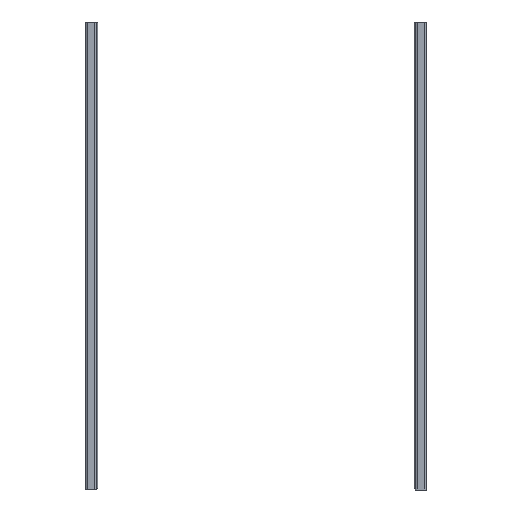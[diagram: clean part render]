
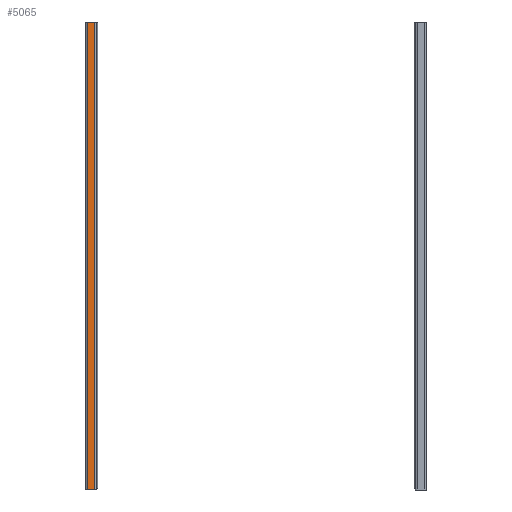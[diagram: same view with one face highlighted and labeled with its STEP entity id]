
A CAD part, front view. The second image highlights one B-rep face of the part: STEP entity #5065.
In plain terms, the highlighted planar face has unit normal (0, -1, 0).
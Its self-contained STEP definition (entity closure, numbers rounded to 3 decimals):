
#615=LINE('',#7634,#1057);
#755=LINE('',#8030,#1197);
#756=LINE('',#8033,#1198);
#757=LINE('',#8034,#1199);
#1057=VECTOR('',#6091,7.6);
#1197=VECTOR('',#6543,500.);
#1198=VECTOR('',#6546,7.6);
#1199=VECTOR('',#6547,500.);
#1445=PLANE('',#5471);
#1636=FACE_OUTER_BOUND('',#1939,.T.);
#1939=EDGE_LOOP('',(#4319,#4320,#4321,#4322));
#2515=VERTEX_POINT('',#7631);
#2516=VERTEX_POINT('',#7633);
#2616=VERTEX_POINT('',#8028);
#2617=VERTEX_POINT('',#8032);
#3027=EDGE_CURVE('',#2515,#2516,#615,.T.);
#3221=EDGE_CURVE('',#2616,#2515,#755,.T.);
#3222=EDGE_CURVE('',#2616,#2617,#756,.T.);
#3223=EDGE_CURVE('',#2516,#2617,#757,.T.);
#4319=ORIENTED_EDGE('',*,*,#3221,.F.);
#4320=ORIENTED_EDGE('',*,*,#3222,.T.);
#4321=ORIENTED_EDGE('',*,*,#3223,.F.);
#4322=ORIENTED_EDGE('',*,*,#3027,.F.);
#5065=ADVANCED_FACE('',(#1636),#1445,.T.);
#5471=AXIS2_PLACEMENT_3D('',#8031,#6544,#6545);
#6091=DIRECTION('',(-1.,0.,0.));
#6543=DIRECTION('',(0.,0.,-1.));
#6544=DIRECTION('center_axis',(0.,-1.,0.));
#6545=DIRECTION('ref_axis',(-1.,0.,0.));
#6546=DIRECTION('',(-1.,0.,0.));
#6547=DIRECTION('',(0.,0.,1.));
#7631=CARTESIAN_POINT('',(9.6,-22.25,-500.));
#7633=CARTESIAN_POINT('',(2.,-22.25,-500.));
#7634=CARTESIAN_POINT('',(11.6,-22.25,-500.));
#8028=CARTESIAN_POINT('',(9.6,-22.25,0.));
#8030=CARTESIAN_POINT('',(9.6,-22.25,0.));
#8031=CARTESIAN_POINT('Origin',(11.6,-22.25,0.));
#8032=CARTESIAN_POINT('',(2.,-22.25,0.));
#8033=CARTESIAN_POINT('',(11.6,-22.25,0.));
#8034=CARTESIAN_POINT('',(2.,-22.25,0.));
